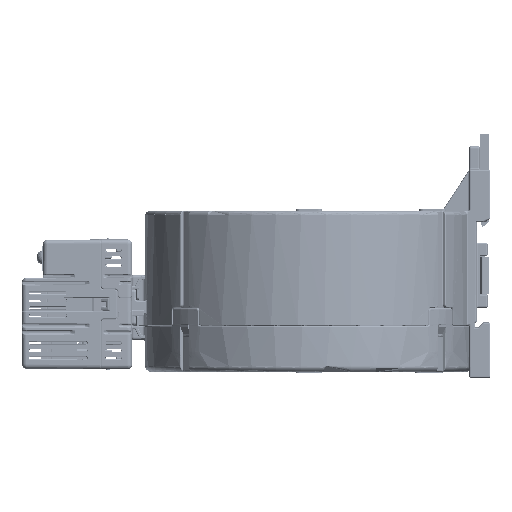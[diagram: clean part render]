
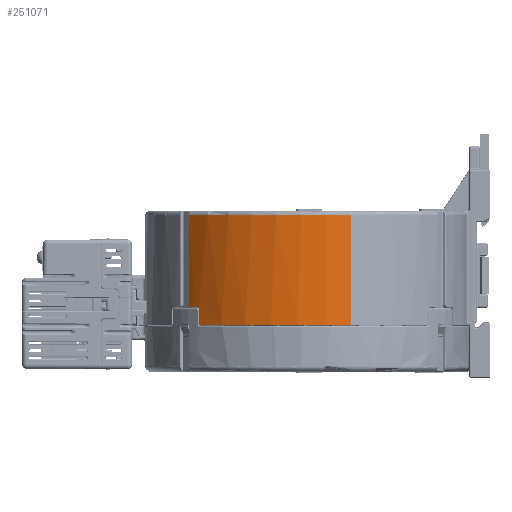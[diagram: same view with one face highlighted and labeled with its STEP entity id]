
A CAD part, left-side view. The second image highlights one B-rep face of the part: STEP entity #251071.
In plain terms, the highlighted cylindrical face has radius 55.4 mm (diameter 110.8 mm), a partial arc.
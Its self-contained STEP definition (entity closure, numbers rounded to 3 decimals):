
#10075 = EDGE_CURVE ( 'NONE', #403531, #178502, #271891, .T. ) ;
#34857 = VERTEX_POINT ( 'NONE', #216747 ) ;
#35821 = CARTESIAN_POINT ( 'NONE',  ( -41.205, 37.031, -33.484 ) ) ;
#39552 = CARTESIAN_POINT ( 'NONE',  ( -37.942, 40.368, -32.306 ) ) ;
#42298 = CARTESIAN_POINT ( 'NONE',  ( -38.146, 40.175, -32.4 ) ) ;
#53012 = DIRECTION ( 'NONE',  ( 0., 0., -1. ) ) ;
#53326 = CIRCLE ( 'NONE', #497770, 55.4 ) ;
#61539 = FACE_OUTER_BOUND ( 'NONE', #525177, .T. ) ;
#68873 = DIRECTION ( 'NONE',  ( 0., 0., -1. ) ) ;
#69973 = ORIENTED_EDGE ( 'NONE', *, *, #416230, .T. ) ;
#72611 = DIRECTION ( 'NONE',  ( 0., 0., 1. ) ) ;
#76686 = DIRECTION ( 'NONE',  ( 0., 0., 1. ) ) ;
#77058 = CARTESIAN_POINT ( 'NONE',  ( -41.205, 37.031, -38.316 ) ) ;
#79440 = ORIENTED_EDGE ( 'NONE', *, *, #353297, .T. ) ;
#92978 = VERTEX_POINT ( 'NONE', #348090 ) ;
#99862 = B_SPLINE_CURVE_WITH_KNOTS ( 'NONE', 3,
 ( #117403, #456981, #251109, #292876, #39552, #543171, #42298, #253810 ),
 .UNSPECIFIED., .F., .F.,
 ( 4, 2, 2, 4 ),
 ( 0., 0.001, 0.001, 0.001 ),
 .UNSPECIFIED. ) ;
#104706 = VECTOR ( 'NONE', #486526, 1000. ) ;
#105042 = CARTESIAN_POINT ( 'NONE',  ( -37.668, 40.624, 0. ) ) ;
#105424 = CARTESIAN_POINT ( 'NONE',  ( -40.463, 37.841, -32.4 ) ) ;
#116404 = CARTESIAN_POINT ( 'NONE',  ( -40.778, 37.501, -32.563 ) ) ;
#117403 = CARTESIAN_POINT ( 'NONE',  ( -37.668, 40.624, -31.65 ) ) ;
#121920 = CARTESIAN_POINT ( 'NONE',  ( -40.871, 37.399, -32.653 ) ) ;
#124706 = VECTOR ( 'NONE', #68873, 1000. ) ;
#136795 = DIRECTION ( 'NONE',  ( -0.966, -0.259, 0. ) ) ;
#147703 = CYLINDRICAL_SURFACE ( 'NONE', #400979, 55.4 ) ;
#148912 = VECTOR ( 'NONE', #53012, 1000. ) ;
#158267 = CARTESIAN_POINT ( 'NONE',  ( -41.097, 37.151, -33.018 ) ) ;
#161020 = CARTESIAN_POINT ( 'NONE',  ( -41.033, 37.222, -32.878 ) ) ;
#178368 = CARTESIAN_POINT ( 'NONE',  ( -41.205, 37.031, 0. ) ) ;
#178502 = VERTEX_POINT ( 'NONE', #420325 ) ;
#181583 = CARTESIAN_POINT ( 'NONE',  ( -38.218, 40.107, -32.4 ) ) ;
#194090 = CARTESIAN_POINT ( 'NONE',  ( -41.224, 37.01, -38.381 ) ) ;
#200686 = DIRECTION ( 'NONE',  ( 0.966, 0.259, 0. ) ) ;
#206071 = CARTESIAN_POINT ( 'NONE',  ( -40.349, 37.962, -32.4 ) ) ;
#206685 = ORIENTED_EDGE ( 'NONE', *, *, #219298, .T. ) ;
#216747 = CARTESIAN_POINT ( 'NONE',  ( -41.205, 37.031, -38.25 ) ) ;
#219298 = EDGE_CURVE ( 'NONE', #465755, #308943, #542899, .T. ) ;
#219864 = DIRECTION ( 'NONE',  ( 0., 0., -1. ) ) ;
#233478 = CARTESIAN_POINT ( 'NONE',  ( -40.574, 37.722, -32.432 ) ) ;
#239450 = AXIS2_PLACEMENT_3D ( 'NONE', #366249, #76686, #246520 ) ;
#240677 = AXIS2_PLACEMENT_3D ( 'NONE', #420314, #72611, #200686 ) ;
#246520 = DIRECTION ( 'NONE',  ( -0.966, -0.259, 0. ) ) ;
#251071 = ADVANCED_FACE ( 'NONE', ( #61539 ), #147703, .T. ) ;
#251109 = CARTESIAN_POINT ( 'NONE',  ( -37.729, 40.568, -32.043 ) ) ;
#253810 = CARTESIAN_POINT ( 'NONE',  ( -38.218, 40.107, -32.4 ) ) ;
#263314 = EDGE_CURVE ( 'NONE', #92978, #300608, #99862, .T. ) ;
#271891 = B_SPLINE_CURVE_WITH_KNOTS ( 'NONE', 3,
 ( #275286, #105424, #233478, #403188, #116404, #121920, #416942, #161020, #158267, #364312, #35821, #456017 ),
 .UNSPECIFIED., .F., .F.,
 ( 4, 2, 2, 2, 2, 4 ),
 ( 0., 0., 0.001, 0.001, 0.001, 0.002 ),
 .UNSPECIFIED. ) ;
#272695 = LINE ( 'NONE', #178368, #148912 ) ;
#273854 = ORIENTED_EDGE ( 'NONE', *, *, #525115, .T. ) ;
#275286 = CARTESIAN_POINT ( 'NONE',  ( -40.349, 37.962, -32.4 ) ) ;
#275509 = EDGE_CURVE ( 'NONE', #34857, #465755, #511039, .T. ) ;
#275789 = DIRECTION ( 'NONE',  ( 0., 0., -1. ) ) ;
#277592 = CARTESIAN_POINT ( 'NONE',  ( -41.205, 37.031, -38.25 ) ) ;
#288640 = CARTESIAN_POINT ( 'NONE',  ( -41.286, 36.94, -38.473 ) ) ;
#289228 = EDGE_CURVE ( 'NONE', #535789, #308943, #439371, .T. ) ;
#292876 = CARTESIAN_POINT ( 'NONE',  ( -37.881, 40.425, -32.25 ) ) ;
#296580 = CARTESIAN_POINT ( 'NONE',  ( -53.512, -14.339, -38.5 ) ) ;
#300608 = VERTEX_POINT ( 'NONE', #181583 ) ;
#306117 = CARTESIAN_POINT ( 'NONE',  ( 0., 0., -1.5 ) ) ;
#308943 = VERTEX_POINT ( 'NONE', #296580 ) ;
#335382 = CARTESIAN_POINT ( 'NONE',  ( -53.512, -14.339, -1.5 ) ) ;
#347814 = CARTESIAN_POINT ( 'NONE',  ( -53.512, -14.339, 0. ) ) ;
#348090 = CARTESIAN_POINT ( 'NONE',  ( -37.668, 40.624, -31.65 ) ) ;
#353297 = EDGE_CURVE ( 'NONE', #178502, #34857, #272695, .T. ) ;
#363469 = CIRCLE ( 'NONE', #239450, 55.4 ) ;
#364312 = CARTESIAN_POINT ( 'NONE',  ( -41.182, 37.056, -33.319 ) ) ;
#366249 = CARTESIAN_POINT ( 'NONE',  ( 0., 0., -32.4 ) ) ;
#371995 = EDGE_CURVE ( 'NONE', #426825, #92978, #486347, .T. ) ;
#380587 = CARTESIAN_POINT ( 'NONE',  ( -37.668, 40.624, -1.5 ) ) ;
#400979 = AXIS2_PLACEMENT_3D ( 'NONE', #518020, #275789, #136795 ) ;
#401386 = ORIENTED_EDGE ( 'NONE', *, *, #263314, .T. ) ;
#403188 = CARTESIAN_POINT ( 'NONE',  ( -40.729, 37.554, -32.525 ) ) ;
#403531 = VERTEX_POINT ( 'NONE', #206071 ) ;
#413973 = ORIENTED_EDGE ( 'NONE', *, *, #289228, .F. ) ;
#416230 = EDGE_CURVE ( 'NONE', #300608, #403531, #363469, .T. ) ;
#416942 = CARTESIAN_POINT ( 'NONE',  ( -40.915, 37.351, -32.706 ) ) ;
#420314 = CARTESIAN_POINT ( 'NONE',  ( 0., 0., -38.5 ) ) ;
#420325 = CARTESIAN_POINT ( 'NONE',  ( -41.205, 37.031, -33.65 ) ) ;
#424581 = CARTESIAN_POINT ( 'NONE',  ( -41.374, 36.842, -38.5 ) ) ;
#426825 = VERTEX_POINT ( 'NONE', #380587 ) ;
#431265 = DIRECTION ( 'NONE',  ( 0.966, 0.259, 0. ) ) ;
#439371 = LINE ( 'NONE', #347814, #104706 ) ;
#443223 = ORIENTED_EDGE ( 'NONE', *, *, #275509, .T. ) ;
#450036 = CARTESIAN_POINT ( 'NONE',  ( -41.374, 36.842, -38.5 ) ) ;
#454157 = ORIENTED_EDGE ( 'NONE', *, *, #10075, .T. ) ;
#456017 = CARTESIAN_POINT ( 'NONE',  ( -41.205, 37.031, -33.65 ) ) ;
#456981 = CARTESIAN_POINT ( 'NONE',  ( -37.668, 40.624, -31.849 ) ) ;
#465755 = VERTEX_POINT ( 'NONE', #424581 ) ;
#486347 = LINE ( 'NONE', #105042, #124706 ) ;
#486526 = DIRECTION ( 'NONE',  ( 0., 0., -1. ) ) ;
#488996 = CARTESIAN_POINT ( 'NONE',  ( -41.33, 36.892, -38.5 ) ) ;
#497770 = AXIS2_PLACEMENT_3D ( 'NONE', #306117, #219864, #431265 ) ;
#511039 = B_SPLINE_CURVE_WITH_KNOTS ( 'NONE', 3,
 ( #277592, #77058, #194090, #288640, #488996, #450036 ),
 .UNSPECIFIED., .F., .F.,
 ( 4, 2, 4 ),
 ( 0., 0., 0. ),
 .UNSPECIFIED. ) ;
#518020 = CARTESIAN_POINT ( 'NONE',  ( 0., 0., 0. ) ) ;
#525115 = EDGE_CURVE ( 'NONE', #535789, #426825, #53326, .T. ) ;
#525177 = EDGE_LOOP ( 'NONE', ( #413973, #273854, #533448, #401386, #69973, #454157, #79440, #443223, #206685 ) ) ;
#533448 = ORIENTED_EDGE ( 'NONE', *, *, #371995, .T. ) ;
#535789 = VERTEX_POINT ( 'NONE', #335382 ) ;
#542899 = CIRCLE ( 'NONE', #240677, 55.4 ) ;
#543171 = CARTESIAN_POINT ( 'NONE',  ( -38.075, 40.242, -32.381 ) ) ;
